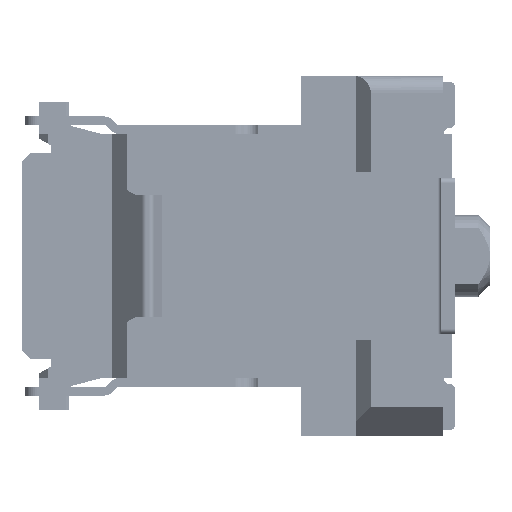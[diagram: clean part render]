
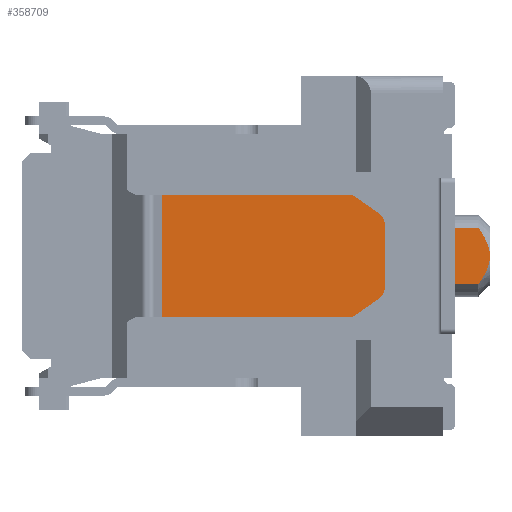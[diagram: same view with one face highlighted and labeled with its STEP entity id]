
A CAD part, left-side view. The second image highlights one B-rep face of the part: STEP entity #358709.
In plain terms, the highlighted planar face has unit normal (-1, 0, 0).
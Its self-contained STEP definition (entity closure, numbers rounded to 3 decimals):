
#994 = EDGE_CURVE ( 'NONE', #248165, #21808, #230749, .T. ) ;
#7256 = CARTESIAN_POINT ( 'NONE',  ( -29.35, -0.6, 0.09 ) ) ;
#16842 = FACE_OUTER_BOUND ( 'NONE', #347379, .T. ) ;
#17530 = VECTOR ( 'NONE', #423612, 1000. ) ;
#21188 = CARTESIAN_POINT ( 'NONE',  ( -29.35, -0.6, 0.49 ) ) ;
#21808 = VERTEX_POINT ( 'NONE', #280510 ) ;
#36052 = CARTESIAN_POINT ( 'NONE',  ( -29.35, 0.2, 1.2 ) ) ;
#57471 = CARTESIAN_POINT ( 'NONE',  ( -29.35, 0.2, -1.05 ) ) ;
#59483 = CARTESIAN_POINT ( 'NONE',  ( -29.35, 0.2, -0.49 ) ) ;
#80264 = CARTESIAN_POINT ( 'NONE',  ( -29.35, -0.6, -0.49 ) ) ;
#88859 = PLANE ( 'NONE',  #153621 ) ;
#89431 = LINE ( 'NONE', #80264, #184329 ) ;
#90570 = DIRECTION ( 'NONE',  ( -1., 0., 0. ) ) ;
#121992 = B_SPLINE_CURVE_WITH_KNOTS ( 'NONE', 3,
 ( #168535, #209117, #492633, #249778, #7256, #290540 ),
 .UNSPECIFIED., .F., .F.,
 ( 4, 2, 4 ),
 ( 0.002, 0.002, 0.003 ),
 .UNSPECIFIED. ) ;
#142248 = VERTEX_POINT ( 'NONE', #59483 ) ;
#143453 = DIRECTION ( 'NONE',  ( 0., 1., 0. ) ) ;
#145118 = CARTESIAN_POINT ( 'NONE',  ( -29.35, -0.6, -0.089 ) ) ;
#153621 = AXIS2_PLACEMENT_3D ( 'NONE', #333031, #90570, #373795 ) ;
#154770 = CARTESIAN_POINT ( 'NONE',  ( -29.35, 7.45, -1.05 ) ) ;
#168535 = CARTESIAN_POINT ( 'NONE',  ( -29.35, -0.4, 0.49 ) ) ;
#184329 = VECTOR ( 'NONE', #405874, 1000. ) ;
#185594 = CARTESIAN_POINT ( 'NONE',  ( -29.35, 7.45, 1.05 ) ) ;
#185780 = CARTESIAN_POINT ( 'NONE',  ( -29.35, -0.5, -0.34 ) ) ;
#189040 = CARTESIAN_POINT ( 'NONE',  ( -29.35, -0.6, 0. ) ) ;
#205256 = VECTOR ( 'NONE', #348421, 1000. ) ;
#208193 = VERTEX_POINT ( 'NONE', #189040 ) ;
#209117 = CARTESIAN_POINT ( 'NONE',  ( -29.35, -0.451, 0.417 ) ) ;
#217946 = LINE ( 'NONE', #185594, #205256 ) ;
#226465 = CARTESIAN_POINT ( 'NONE',  ( -29.35, -0.4, -0.49 ) ) ;
#229985 = VECTOR ( 'NONE', #522153, 1000. ) ;
#230035 = B_SPLINE_CURVE_WITH_KNOTS ( 'NONE', 3,
 ( #387700, #145118, #428518, #185780, #469168, #226465 ),
 .UNSPECIFIED., .F., .F.,
 ( 4, 2, 4 ),
 ( 0.003, 0.003, 0.003 ),
 .UNSPECIFIED. ) ;
#230749 = LINE ( 'NONE', #36052, #325847 ) ;
#232201 = ORIENTED_EDGE ( 'NONE', *, *, #357233, .F. ) ;
#244196 = VERTEX_POINT ( 'NONE', #57471 ) ;
#248165 = VERTEX_POINT ( 'NONE', #385757 ) ;
#249778 = CARTESIAN_POINT ( 'NONE',  ( -29.35, -0.574, 0.179 ) ) ;
#250499 = ORIENTED_EDGE ( 'NONE', *, *, #416435, .T. ) ;
#259526 = CARTESIAN_POINT ( 'NONE',  ( -29.35, 5.041, 1.05 ) ) ;
#263721 = LINE ( 'NONE', #21188, #466605 ) ;
#264688 = ORIENTED_EDGE ( 'NONE', *, *, #432250, .F. ) ;
#278554 = DIRECTION ( 'NONE',  ( 0., 0., 1. ) ) ;
#280510 = CARTESIAN_POINT ( 'NONE',  ( -29.35, 0.2, 1.05 ) ) ;
#283104 = ORIENTED_EDGE ( 'NONE', *, *, #308380, .F. ) ;
#290540 = CARTESIAN_POINT ( 'NONE',  ( -29.35, -0.6, 0. ) ) ;
#308380 = EDGE_CURVE ( 'NONE', #208193, #401834, #230035, .T. ) ;
#325847 = VECTOR ( 'NONE', #278554, 1000. ) ;
#331882 = CARTESIAN_POINT ( 'NONE',  ( -29.35, -0.4, 0.49 ) ) ;
#333031 = CARTESIAN_POINT ( 'NONE',  ( -29.35, -0.6, -0.49 ) ) ;
#337772 = LINE ( 'NONE', #399792, #229985 ) ;
#338754 = EDGE_CURVE ( 'NONE', #244196, #142248, #435880, .T. ) ;
#341418 = ORIENTED_EDGE ( 'NONE', *, *, #338754, .T. ) ;
#343219 = ORIENTED_EDGE ( 'NONE', *, *, #383318, .F. ) ;
#347379 = EDGE_LOOP ( 'NONE', ( #343219, #387500, #341418, #264688, #283104, #232201, #250499, #497138, #413235 ) ) ;
#348421 = DIRECTION ( 'NONE',  ( 0., -1., 0. ) ) ;
#356521 = VERTEX_POINT ( 'NONE', #447353 ) ;
#357233 = EDGE_CURVE ( 'NONE', #451284, #208193, #121992, .T. ) ;
#358709 = ADVANCED_FACE ( 'NONE', ( #16842 ), #88859, .T. ) ;
#373795 = DIRECTION ( 'NONE',  ( 0., 0., 1. ) ) ;
#378586 = CARTESIAN_POINT ( 'NONE',  ( -29.35, -0.4, -0.49 ) ) ;
#382855 = CARTESIAN_POINT ( 'NONE',  ( -29.35, 0.2, 1.2 ) ) ;
#383318 = EDGE_CURVE ( 'NONE', #356521, #385297, #337772, .T. ) ;
#385297 = VERTEX_POINT ( 'NONE', #259526 ) ;
#385757 = CARTESIAN_POINT ( 'NONE',  ( -29.35, 0.2, 0.49 ) ) ;
#387500 = ORIENTED_EDGE ( 'NONE', *, *, #475148, .T. ) ;
#387700 = CARTESIAN_POINT ( 'NONE',  ( -29.35, -0.6, 0. ) ) ;
#397342 = DIRECTION ( 'NONE',  ( 0., -1., 0. ) ) ;
#399792 = CARTESIAN_POINT ( 'NONE',  ( -29.35, 5.041, -1.724 ) ) ;
#401834 = VERTEX_POINT ( 'NONE', #378586 ) ;
#405874 = DIRECTION ( 'NONE',  ( 0., 1., 0. ) ) ;
#412485 = LINE ( 'NONE', #154770, #520417 ) ;
#413235 = ORIENTED_EDGE ( 'NONE', *, *, #462469, .F. ) ;
#416435 = EDGE_CURVE ( 'NONE', #451284, #248165, #263721, .T. ) ;
#423612 = DIRECTION ( 'NONE',  ( 0., 0., 1. ) ) ;
#428518 = CARTESIAN_POINT ( 'NONE',  ( -29.35, -0.574, -0.178 ) ) ;
#432250 = EDGE_CURVE ( 'NONE', #401834, #142248, #89431, .T. ) ;
#435880 = LINE ( 'NONE', #382855, #17530 ) ;
#447353 = CARTESIAN_POINT ( 'NONE',  ( -29.35, 5.041, -1.05 ) ) ;
#451284 = VERTEX_POINT ( 'NONE', #331882 ) ;
#462469 = EDGE_CURVE ( 'NONE', #385297, #21808, #217946, .T. ) ;
#466605 = VECTOR ( 'NONE', #143453, 1000. ) ;
#469168 = CARTESIAN_POINT ( 'NONE',  ( -29.35, -0.451, -0.417 ) ) ;
#475148 = EDGE_CURVE ( 'NONE', #356521, #244196, #412485, .T. ) ;
#492633 = CARTESIAN_POINT ( 'NONE',  ( -29.35, -0.499, 0.342 ) ) ;
#497138 = ORIENTED_EDGE ( 'NONE', *, *, #994, .T. ) ;
#520417 = VECTOR ( 'NONE', #397342, 1000. ) ;
#522153 = DIRECTION ( 'NONE',  ( 0., 0., 1. ) ) ;
